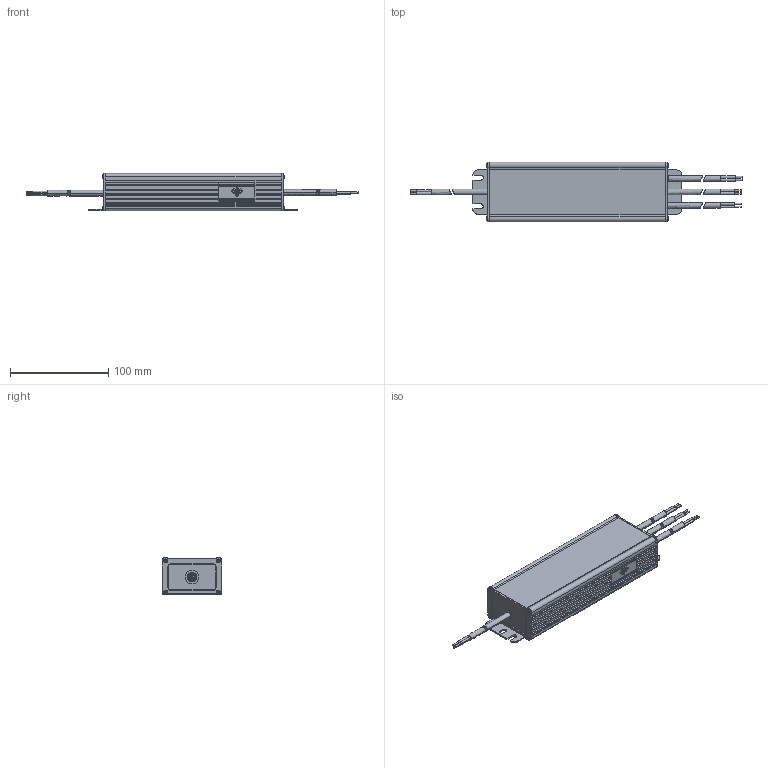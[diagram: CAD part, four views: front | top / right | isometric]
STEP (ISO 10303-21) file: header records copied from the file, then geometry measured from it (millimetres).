
FILE_DESCRIPTION((''),'2;1');
FILE_NAME('15014108Z_DMEC_213X61X37-8','2020-10-14T11:49:47',('Emanuel.Wild'),(''),'CREO PARAMETRIC BY PTC INC, 2019164','CREO PARAMETRIC BY PTC INC, 2019164','');
FILE_SCHEMA(('CONFIG_CONTROL_DESIGN'));
Products named in the file (1): 15014108Z_DMEC_213X61X37-8
Bounding box: 338.45 x 61.02 x 37.79 mm (x, y, z)
Volume: 99048.4 mm3; surface area: 115611 mm2
Topology: 6 solids, 10 shells, 1635 faces, 4358 edges, 2833 vertices
Faces by surface type: bspline 890, revolution 711, extrusion 18, cylinder 16
Entity records: 66819 total; most frequent: CARTESIAN_POINT 27837, ORIENTED_EDGE 8706, DIRECTION 6002, EDGE_CURVE 4353, VERTEX_POINT 2833, VECTOR 2671, LINE 2653, EDGE_LOOP 2002
